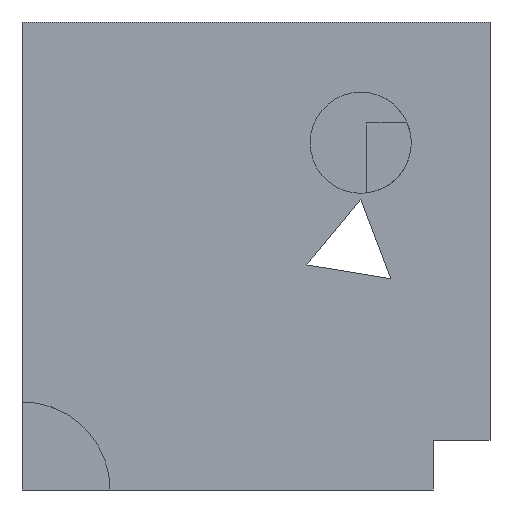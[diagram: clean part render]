
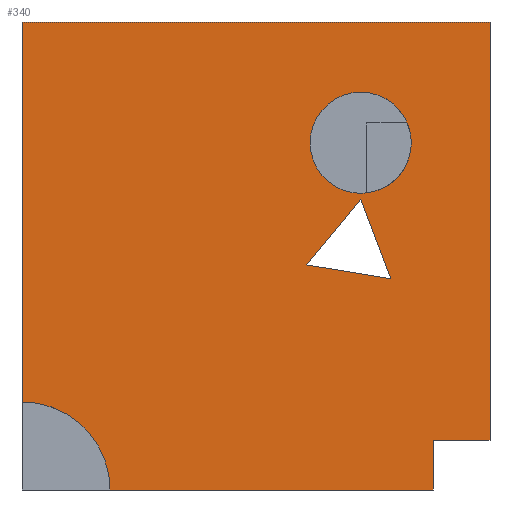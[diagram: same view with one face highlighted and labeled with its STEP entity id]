
A CAD part, left-side view. The second image highlights one B-rep face of the part: STEP entity #340.
In plain terms, the highlighted planar face has unit normal (-1, 0, 0).
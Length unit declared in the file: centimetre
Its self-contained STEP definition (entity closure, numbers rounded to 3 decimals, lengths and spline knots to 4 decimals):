
#15 = DIRECTION ( 'NONE',  ( 0., -1., 0. ) ) ;
#23 = DIRECTION ( 'NONE',  ( -1., 0., 0. ) ) ;
#44 = CARTESIAN_POINT ( 'NONE',  ( 0., 121.1678, 105.891 ) ) ;
#49 = CARTESIAN_POINT ( 'NONE',  ( 0., 276.2227, 742.0033 ) ) ;
#60 = AXIS2_PLACEMENT_3D ( 'NONE', #860, #424, #142 ) ;
#77 = VERTEX_POINT ( 'NONE', #1244 ) ;
#90 = CARTESIAN_POINT ( 'NONE',  ( 0., 276.0989, 621.5982 ) ) ;
#92 = DIRECTION ( 'NONE',  ( 0., -1., 0. ) ) ;
#96 = CARTESIAN_POINT ( 'NONE',  ( 0., 391.4616, 481.0059 ) ) ;
#100 = VECTOR ( 'NONE', #820, 100. ) ;
#142 = DIRECTION ( 'NONE',  ( 0., 0., 1. ) ) ;
#181 = DIRECTION ( 'NONE',  ( 0., -1., 0. ) ) ;
#182 = CARTESIAN_POINT ( 'NONE',  ( 0., 0., 105.891 ) ) ;
#187 = AXIS2_PLACEMENT_3D ( 'NONE', #293, #782, #371 ) ;
#190 = ORIENTED_EDGE ( 'NONE', *, *, #969, .F. ) ;
#193 = DIRECTION ( 'NONE',  ( 0., 0., 1. ) ) ;
#196 = FACE_BOUND ( 'NONE', #1058, .T. ) ;
#202 = AXIS2_PLACEMENT_3D ( 'NONE', #1154, #23, #826 ) ;
#216 = LINE ( 'NONE', #1124, #1091 ) ;
#222 = VERTEX_POINT ( 'NONE', #90 ) ;
#283 = CARTESIAN_POINT ( 'NONE',  ( 0., 212.0237, 451.395 ) ) ;
#290 = LINE ( 'NONE', #397, #1242 ) ;
#293 = CARTESIAN_POINT ( 'NONE',  ( 0., 1000., 1000. ) ) ;
#310 = DIRECTION ( 'NONE',  ( 0., 0.352, 0.936 ) ) ;
#313 = CARTESIAN_POINT ( 'NONE',  ( 0., 811.8032, 0. ) ) ;
#322 = EDGE_CURVE ( 'NONE', #1093, #609, #1009, .T. ) ;
#331 = VERTEX_POINT ( 'NONE', #283 ) ;
#340 = ADVANCED_FACE ( 'NONE', ( #196, #791, #488 ), #810, .F. ) ;
#341 = ORIENTED_EDGE ( 'NONE', *, *, #485, .F. ) ;
#349 = VERTEX_POINT ( 'NONE', #589 ) ;
#355 = VERTEX_POINT ( 'NONE', #391 ) ;
#365 = EDGE_CURVE ( 'NONE', #432, #331, #1003, .T. ) ;
#371 = DIRECTION ( 'NONE',  ( 0., 0., -1. ) ) ;
#380 = AXIS2_PLACEMENT_3D ( 'NONE', #49, #838, #1027 ) ;
#382 = CARTESIAN_POINT ( 'NONE',  ( 0., 121.1678, 0. ) ) ;
#386 = ORIENTED_EDGE ( 'NONE', *, *, #322, .T. ) ;
#391 = CARTESIAN_POINT ( 'NONE',  ( 0., 1000., 1000. ) ) ;
#395 = CARTESIAN_POINT ( 'NONE',  ( 0., 391.4616, 481.0059 ) ) ;
#397 = CARTESIAN_POINT ( 'NONE',  ( 0., 276.0989, 621.5982 ) ) ;
#424 = DIRECTION ( 'NONE',  ( -1., 0., 0. ) ) ;
#432 = VERTEX_POINT ( 'NONE', #395 ) ;
#485 = EDGE_CURVE ( 'NONE', #331, #222, #216, .T. ) ;
#488 = FACE_OUTER_BOUND ( 'NONE', #1216, .T. ) ;
#519 = ORIENTED_EDGE ( 'NONE', *, *, #365, .F. ) ;
#547 = ORIENTED_EDGE ( 'NONE', *, *, #986, .T. ) ;
#551 = CARTESIAN_POINT ( 'NONE',  ( 0., 1000., 188.1968 ) ) ;
#589 = CARTESIAN_POINT ( 'NONE',  ( 0., 0., 1000. ) ) ;
#607 = EDGE_CURVE ( 'NONE', #349, #609, #1001, .T. ) ;
#609 = VERTEX_POINT ( 'NONE', #1196 ) ;
#631 = LINE ( 'NONE', #744, #821 ) ;
#634 = ORIENTED_EDGE ( 'NONE', *, *, #773, .F. ) ;
#678 = ORIENTED_EDGE ( 'NONE', *, *, #607, .F. ) ;
#681 = DIRECTION ( 'NONE',  ( 0., -0.987, -0.163 ) ) ;
#685 = LINE ( 'NONE', #897, #1082 ) ;
#695 = EDGE_CURVE ( 'NONE', #222, #432, #290, .T. ) ;
#698 = ORIENTED_EDGE ( 'NONE', *, *, #1072, .F. ) ;
#714 = VECTOR ( 'NONE', #193, 100. ) ;
#722 = EDGE_LOOP ( 'NONE', ( #341, #519, #858 ) ) ;
#729 = CARTESIAN_POINT ( 'NONE',  ( 0., 121.1678, 0. ) ) ;
#744 = CARTESIAN_POINT ( 'NONE',  ( 0., 1000., 1000. ) ) ;
#773 = EDGE_CURVE ( 'NONE', #77, #881, #875, .T. ) ;
#782 = DIRECTION ( 'NONE',  ( 1., 0., 0. ) ) ;
#791 = FACE_BOUND ( 'NONE', #722, .T. ) ;
#810 = PLANE ( 'NONE',  #187 ) ;
#814 = LINE ( 'NONE', #886, #1226 ) ;
#819 = CARTESIAN_POINT ( 'NONE',  ( 0., 276.2227, 633.9008 ) ) ;
#820 = DIRECTION ( 'NONE',  ( 0., 0., -1. ) ) ;
#821 = VECTOR ( 'NONE', #1148, 100. ) ;
#826 = DIRECTION ( 'NONE',  ( 0., 0., 1. ) ) ;
#838 = DIRECTION ( 'NONE',  ( -1., 0., 0. ) ) ;
#858 = ORIENTED_EDGE ( 'NONE', *, *, #695, .F. ) ;
#860 = CARTESIAN_POINT ( 'NONE',  ( 0., 1000., 0. ) ) ;
#875 = CIRCLE ( 'NONE', #380, 108.1025 ) ;
#881 = VERTEX_POINT ( 'NONE', #819 ) ;
#886 = CARTESIAN_POINT ( 'NONE',  ( 0., 1000., 1000. ) ) ;
#897 = CARTESIAN_POINT ( 'NONE',  ( 0., 1000., 0. ) ) ;
#902 = CARTESIAN_POINT ( 'NONE',  ( 0., 0., 1000. ) ) ;
#969 = EDGE_CURVE ( 'NONE', #881, #77, #1265, .T. ) ;
#975 = VERTEX_POINT ( 'NONE', #729 ) ;
#986 = EDGE_CURVE ( 'NONE', #355, #1291, #631, .T. ) ;
#1001 = LINE ( 'NONE', #902, #100 ) ;
#1003 = LINE ( 'NONE', #96, #1063 ) ;
#1009 = LINE ( 'NONE', #182, #1274 ) ;
#1027 = DIRECTION ( 'NONE',  ( 0., 0., 1. ) ) ;
#1056 = ORIENTED_EDGE ( 'NONE', *, *, #1126, .F. ) ;
#1058 = EDGE_LOOP ( 'NONE', ( #634, #190 ) ) ;
#1063 = VECTOR ( 'NONE', #681, 100. ) ;
#1070 = ORIENTED_EDGE ( 'NONE', *, *, #1155, .T. ) ;
#1072 = EDGE_CURVE ( 'NONE', #1189, #1291, #1200, .T. ) ;
#1082 = VECTOR ( 'NONE', #181, 100. ) ;
#1091 = VECTOR ( 'NONE', #310, 100. ) ;
#1093 = VERTEX_POINT ( 'NONE', #44 ) ;
#1124 = CARTESIAN_POINT ( 'NONE',  ( 0., 212.0237, 451.395 ) ) ;
#1126 = EDGE_CURVE ( 'NONE', #355, #349, #814, .T. ) ;
#1148 = DIRECTION ( 'NONE',  ( 0., 0., -1. ) ) ;
#1154 = CARTESIAN_POINT ( 'NONE',  ( 0., 276.2227, 742.0033 ) ) ;
#1155 = EDGE_CURVE ( 'NONE', #975, #1093, #1205, .T. ) ;
#1162 = EDGE_CURVE ( 'NONE', #1189, #975, #685, .T. ) ;
#1185 = ORIENTED_EDGE ( 'NONE', *, *, #1162, .T. ) ;
#1189 = VERTEX_POINT ( 'NONE', #313 ) ;
#1196 = CARTESIAN_POINT ( 'NONE',  ( 0., 0., 105.891 ) ) ;
#1200 = CIRCLE ( 'NONE', #60, 188.1968 ) ;
#1205 = LINE ( 'NONE', #382, #714 ) ;
#1216 = EDGE_LOOP ( 'NONE', ( #547, #698, #1185, #1070, #386, #678, #1056 ) ) ;
#1226 = VECTOR ( 'NONE', #15, 100. ) ;
#1228 = DIRECTION ( 'NONE',  ( 0., 0.634, -0.773 ) ) ;
#1242 = VECTOR ( 'NONE', #1228, 100. ) ;
#1244 = CARTESIAN_POINT ( 'NONE',  ( 0., 276.2227, 850.1057 ) ) ;
#1265 = CIRCLE ( 'NONE', #202, 108.1025 ) ;
#1274 = VECTOR ( 'NONE', #92, 100. ) ;
#1291 = VERTEX_POINT ( 'NONE', #551 ) ;
